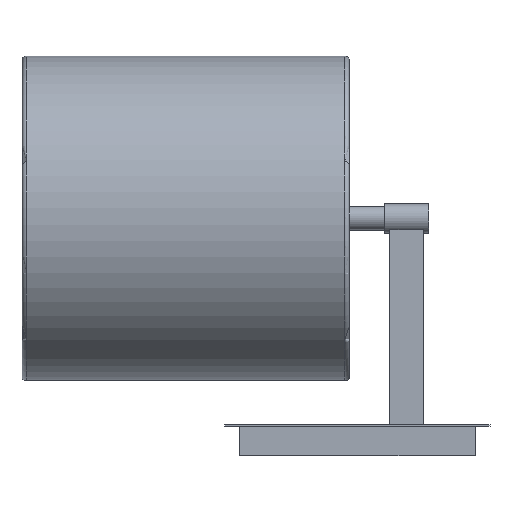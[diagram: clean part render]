
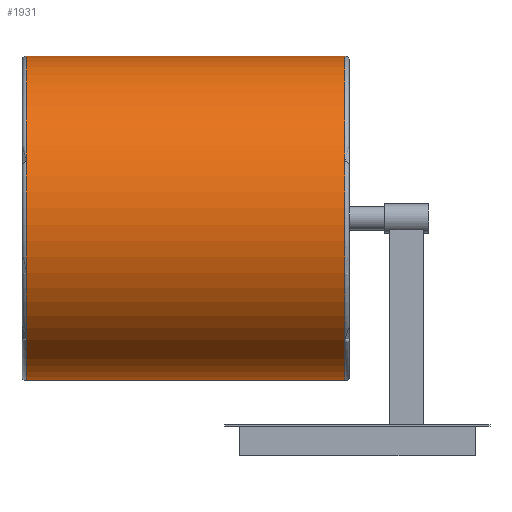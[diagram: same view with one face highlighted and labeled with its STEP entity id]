
A CAD part, left-side view. The second image highlights one B-rep face of the part: STEP entity #1931.
In plain terms, the highlighted cylindrical face has radius 109.997 mm (diameter 219.995 mm), a partial arc.
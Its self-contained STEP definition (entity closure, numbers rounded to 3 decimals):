
#43=B_SPLINE_CURVE_WITH_KNOTS('',3,(#5035,#5036,#5037,#5038,#5039,#5040,
#5041,#5042,#5043,#5044,#5045,#5046,#5047),.UNSPECIFIED.,.F.,.F.,(4,1,1,
1,1,1,1,1,1,1,4),(0.,0.1,0.2,0.3,0.4,0.5,0.6,0.7,0.8,0.9,1.),
 .UNSPECIFIED.);
#46=B_SPLINE_CURVE_WITH_KNOTS('',3,(#5072,#5073,#5074,#5075,#5076,#5077,
#5078,#5079,#5080,#5081,#5082,#5083,#5084),.UNSPECIFIED.,.F.,.F.,(4,1,1,
1,1,1,1,1,1,1,4),(0.,0.1,0.2,0.3,0.4,0.5,0.6,0.7,0.8,0.9,1.),
 .UNSPECIFIED.);
#235=FACE_OUTER_BOUND('',#369,.T.);
#369=EDGE_LOOP('',(#1505,#1506,#1507,#1508));
#578=LINE('',#5070,#727);
#579=LINE('',#5085,#728);
#727=VECTOR('',#2469,304.8);
#728=VECTOR('',#2470,304.8);
#892=VERTEX_POINT('',#5027);
#893=VERTEX_POINT('',#5034);
#894=VERTEX_POINT('',#5069);
#895=VERTEX_POINT('',#5071);
#1105=EDGE_CURVE('',#893,#892,#43,.T.);
#1108=EDGE_CURVE('',#894,#892,#578,.T.);
#1109=EDGE_CURVE('',#895,#894,#46,.T.);
#1110=EDGE_CURVE('',#893,#895,#579,.T.);
#1505=ORIENTED_EDGE('',*,*,#1105,.T.);
#1506=ORIENTED_EDGE('',*,*,#1108,.F.);
#1507=ORIENTED_EDGE('',*,*,#1109,.F.);
#1508=ORIENTED_EDGE('',*,*,#1110,.F.);
#1853=CYLINDRICAL_SURFACE('',#2106,109.997);
#1931=ADVANCED_FACE('',(#235),#1853,.T.);
#2106=AXIS2_PLACEMENT_3D('',#5068,#2467,#2468);
#2467=DIRECTION('center_axis',(0.,-1.,0.));
#2468=DIRECTION('ref_axis',(0.,0.,
1.));
#2469=DIRECTION('',(0.,-1.,0.));
#2470=DIRECTION('',(0.,1.,0.));
#5027=CARTESIAN_POINT('',(0.,-224.553,51.003));
#5034=CARTESIAN_POINT('',(0.,-224.553,270.997));
#5035=CARTESIAN_POINT('Ctrl Pts',(0.,-224.553,
270.997));
#5036=CARTESIAN_POINT('Ctrl Pts',(11.538,-224.553,271.058));
#5037=CARTESIAN_POINT('Ctrl Pts',(34.546,-224.553,267.32));
#5038=CARTESIAN_POINT('Ctrl Pts',(65.73,-224.553,251.473));
#5039=CARTESIAN_POINT('Ctrl Pts',(90.465,-224.553,226.725));
#5040=CARTESIAN_POINT('Ctrl Pts',(106.349,-224.553,195.555));
#5041=CARTESIAN_POINT('Ctrl Pts',(111.822,-224.553,161.));
#5042=CARTESIAN_POINT('Ctrl Pts',(106.349,-224.553,126.445));
#5043=CARTESIAN_POINT('Ctrl Pts',(90.465,-224.553,95.275));
#5044=CARTESIAN_POINT('Ctrl Pts',(65.73,-224.553,70.527));
#5045=CARTESIAN_POINT('Ctrl Pts',(34.546,-224.553,54.68));
#5046=CARTESIAN_POINT('Ctrl Pts',(11.538,-224.553,50.942));
#5047=CARTESIAN_POINT('Ctrl Pts',(0.,-224.553,
51.003));
#5068=CARTESIAN_POINT('Origin',(0.,288.405,
161.));
#5069=CARTESIAN_POINT('',(0.,-8.492,51.003));
#5070=CARTESIAN_POINT('',(0.,-8.492,51.003));
#5071=CARTESIAN_POINT('',(0.,-8.492,270.997));
#5072=CARTESIAN_POINT('Ctrl Pts',(0.,-8.492,
270.997));
#5073=CARTESIAN_POINT('Ctrl Pts',(11.538,-8.492,271.058));
#5074=CARTESIAN_POINT('Ctrl Pts',(34.546,-8.492,267.32));
#5075=CARTESIAN_POINT('Ctrl Pts',(65.73,-8.492,251.473));
#5076=CARTESIAN_POINT('Ctrl Pts',(90.465,-8.492,226.725));
#5077=CARTESIAN_POINT('Ctrl Pts',(106.349,-8.492,195.555));
#5078=CARTESIAN_POINT('Ctrl Pts',(111.822,-8.492,161.));
#5079=CARTESIAN_POINT('Ctrl Pts',(106.349,-8.492,126.445));
#5080=CARTESIAN_POINT('Ctrl Pts',(90.465,-8.492,95.275));
#5081=CARTESIAN_POINT('Ctrl Pts',(65.73,-8.492,70.527));
#5082=CARTESIAN_POINT('Ctrl Pts',(34.546,-8.492,54.68));
#5083=CARTESIAN_POINT('Ctrl Pts',(11.538,-8.492,50.942));
#5084=CARTESIAN_POINT('Ctrl Pts',(0.,-8.492,
51.003));
#5085=CARTESIAN_POINT('',(0.,-224.553,270.997));
